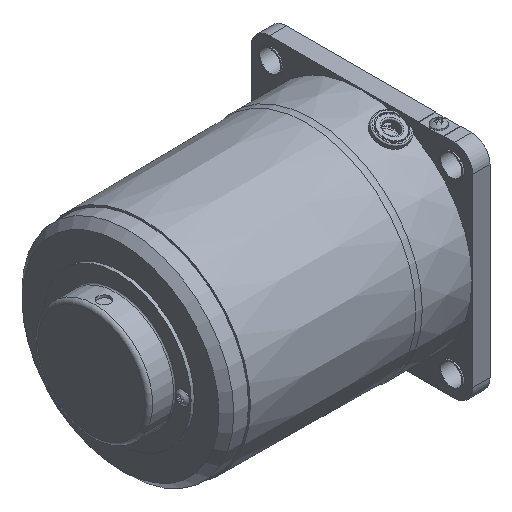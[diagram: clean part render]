
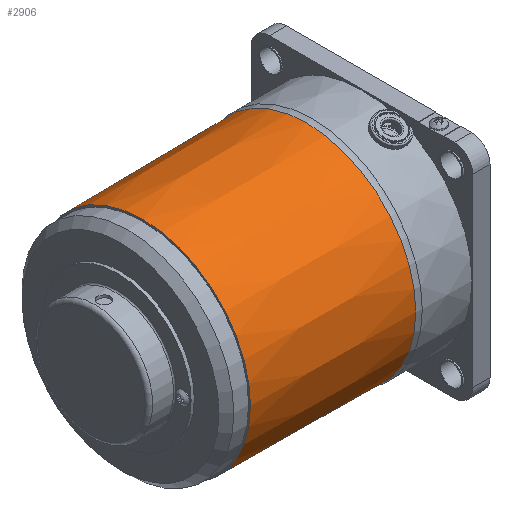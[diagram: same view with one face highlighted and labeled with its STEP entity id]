
A CAD part, isometric view. The second image highlights one B-rep face of the part: STEP entity #2906.
In plain terms, the highlighted conical face has half-angle 0.48 degrees and reference radius 44.029 mm.
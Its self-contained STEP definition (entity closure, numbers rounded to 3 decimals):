
#14=CONICAL_SURFACE('',#3129,44.029,0.008);
#302=LINE('',#4550,#528);
#528=VECTOR('',#3567,44.029);
#816=FACE_OUTER_BOUND('',#989,.T.);
#989=EDGE_LOOP('',(#2161,#2162,#2163,#2164,#2165));
#1163=CIRCLE('',#3127,44.308);
#1164=CIRCLE('',#3128,44.308);
#1165=CIRCLE('',#3130,43.75);
#1335=VERTEX_POINT('',#4543);
#1336=VERTEX_POINT('',#4545);
#1337=VERTEX_POINT('',#4549);
#1643=EDGE_CURVE('',#1335,#1336,#1163,.T.);
#1644=EDGE_CURVE('',#1336,#1335,#1164,.T.);
#1645=EDGE_CURVE('',#1336,#1337,#302,.T.);
#1646=EDGE_CURVE('',#1337,#1337,#1165,.T.);
#2161=ORIENTED_EDGE('',*,*,#1644,.F.);
#2162=ORIENTED_EDGE('',*,*,#1645,.T.);
#2163=ORIENTED_EDGE('',*,*,#1646,.T.);
#2164=ORIENTED_EDGE('',*,*,#1645,.F.);
#2165=ORIENTED_EDGE('',*,*,#1643,.F.);
#2906=ADVANCED_FACE('',(#816),#14,.T.);
#3127=AXIS2_PLACEMENT_3D('',#4546,#3561,#3562);
#3128=AXIS2_PLACEMENT_3D('',#4547,#3563,#3564);
#3129=AXIS2_PLACEMENT_3D('',#4548,#3565,#3566);
#3130=AXIS2_PLACEMENT_3D('',#4551,#3568,#3569);
#3561=DIRECTION('center_axis',(1.,0.,0.));
#3562=DIRECTION('ref_axis',(0.,1.,0.));
#3563=DIRECTION('center_axis',(1.,0.,0.));
#3564=DIRECTION('ref_axis',(0.,1.,0.));
#3565=DIRECTION('center_axis',(1.,0.,0.));
#3566=DIRECTION('ref_axis',(0.,1.,0.));
#3567=DIRECTION('',(-1.,0.008,0.));
#3568=DIRECTION('center_axis',(1.,0.,0.));
#3569=DIRECTION('ref_axis',(0.,1.,0.));
#4543=CARTESIAN_POINT('',(75.559,0.,44.308));
#4545=CARTESIAN_POINT('',(75.559,-44.308,0.));
#4546=CARTESIAN_POINT('Origin',(75.559,0.,0.));
#4547=CARTESIAN_POINT('Origin',(75.559,0.,0.));
#4548=CARTESIAN_POINT('Origin',(42.279,0.,0.));
#4549=CARTESIAN_POINT('',(9.,-43.75,0.));
#4550=CARTESIAN_POINT('',(42.279,-44.029,0.));
#4551=CARTESIAN_POINT('Origin',(9.,0.,0.));
